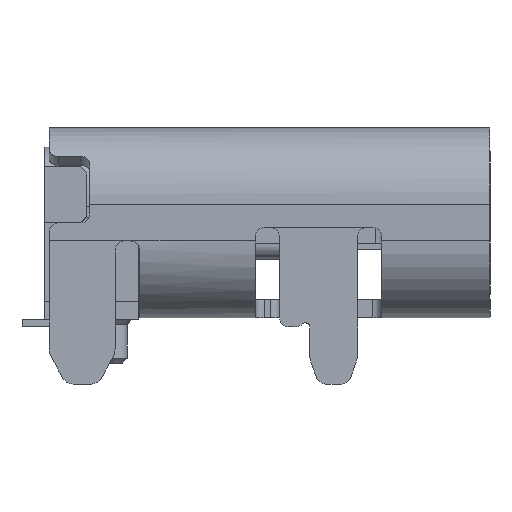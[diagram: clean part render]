
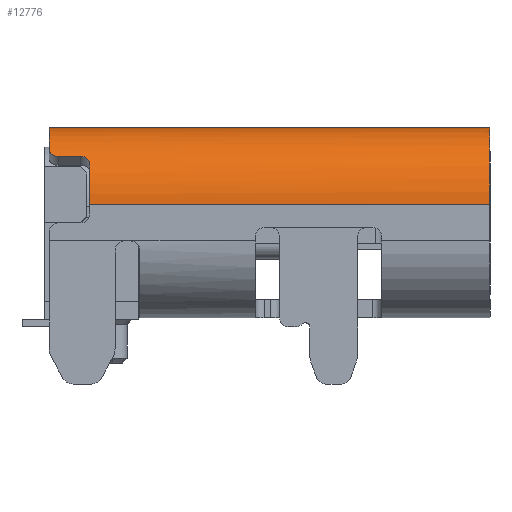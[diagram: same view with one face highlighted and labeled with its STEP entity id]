
A CAD part, left-side view. The second image highlights one B-rep face of the part: STEP entity #12776.
In plain terms, the highlighted cylindrical face has radius 1.28 mm (diameter 2.56 mm), a partial arc.
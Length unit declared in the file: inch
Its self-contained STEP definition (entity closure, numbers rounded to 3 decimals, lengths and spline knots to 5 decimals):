
#213 = CARTESIAN_POINT ( 'NONE',  ( -0.16455, 0.14064, 0.11189 ) ) ;
#229 = CARTESIAN_POINT ( 'NONE',  ( -0.16477, 0.12303, 0.11161 ) ) ;
#541 = VECTOR ( 'NONE', #14574, 39.37008 ) ;
#687 = EDGE_CURVE ( 'NONE', #16329, #3820, #5750, .T. ) ;
#922 = VERTEX_POINT ( 'NONE', #14120 ) ;
#1063 = VERTEX_POINT ( 'NONE', #3758 ) ;
#1182 = AXIS2_PLACEMENT_3D ( 'NONE', #12860, #15890, #6630 ) ;
#1657 = EDGE_LOOP ( 'NONE', ( #13196, #19400, #12576, #17677, #17789, #9698, #3489, #3994 ) ) ;
#1800 = AXIS2_PLACEMENT_3D ( 'NONE', #6324, #5033, #18429 ) ;
#2534 = DIRECTION ( 'NONE',  ( 1., 0., 0. ) ) ;
#2635 = CARTESIAN_POINT ( 'NONE',  ( -0.17598, -0.14469, 0.07992 ) ) ;
#2639 = LINE ( 'NONE', #17732, #16073 ) ;
#3489 = ORIENTED_EDGE ( 'NONE', *, *, #17848, .T. ) ;
#3758 = CARTESIAN_POINT ( 'NONE',  ( -0.16823, 0.11713, 0.10677 ) ) ;
#3790 = CARTESIAN_POINT ( 'NONE',  ( -0.12559, -0.14469, 0.07992 ) ) ;
#3820 = VERTEX_POINT ( 'NONE', #4444 ) ;
#3911 = B_SPLINE_CURVE_WITH_KNOTS ( 'NONE', 7,
 ( #11074, #9489, #15419, #6343, #13744, #9192, #18654, #229 ),
 .UNSPECIFIED., .F., .F.,
 ( 8, 8 ),
 ( 0., 1. ),
 .UNSPECIFIED. ) ;
#3994 = ORIENTED_EDGE ( 'NONE', *, *, #19463, .F. ) ;
#4020 = DIRECTION ( 'NONE',  ( 0., -1., 0. ) ) ;
#4029 = VERTEX_POINT ( 'NONE', #2635 ) ;
#4444 = CARTESIAN_POINT ( 'NONE',  ( -0.12559, 0.1439, 0.13031 ) ) ;
#4558 = CARTESIAN_POINT ( 'NONE',  ( -0.12559, -0.14469, 0.13031 ) ) ;
#4751 = CARTESIAN_POINT ( 'NONE',  ( -0.16262, 0.14355, 0.11415 ) ) ;
#5033 = DIRECTION ( 'NONE',  ( 0., -1., 0. ) ) ;
#5750 = LINE ( 'NONE', #4558, #14151 ) ;
#6233 = EDGE_CURVE ( 'NONE', #16329, #4029, #18811, .T. ) ;
#6324 = CARTESIAN_POINT ( 'NONE',  ( -0.12559, -0.14469, 0.07992 ) ) ;
#6343 = CARTESIAN_POINT ( 'NONE',  ( -0.16606, 0.11817, 0.11 ) ) ;
#6630 = DIRECTION ( 'NONE',  ( 1., 0., 0. ) ) ;
#6653 = DIRECTION ( 'NONE',  ( 1., 0., 0. ) ) ;
#7361 = CARTESIAN_POINT ( 'NONE',  ( -0.16067, 0.1439, 0.11611 ) ) ;
#7609 = CARTESIAN_POINT ( 'NONE',  ( -0.16477, 0.13932, 0.11161 ) ) ;
#8190 = VERTEX_POINT ( 'NONE', #7361 ) ;
#8545 = LINE ( 'NONE', #14665, #541 ) ;
#8769 = DIRECTION ( 'NONE',  ( 0., -1., 0. ) ) ;
#9160 = EDGE_CURVE ( 'NONE', #4029, #14250, #8545, .T. ) ;
#9192 = CARTESIAN_POINT ( 'NONE',  ( -0.16499, 0.12039, 0.11134 ) ) ;
#9476 = EDGE_CURVE ( 'NONE', #3820, #8190, #15668, .T. ) ;
#9489 = CARTESIAN_POINT ( 'NONE',  ( -0.16752, 0.11713, 0.1079 ) ) ;
#9698 = ORIENTED_EDGE ( 'NONE', *, *, #13045, .F. ) ;
#9708 = CYLINDRICAL_SURFACE ( 'NONE', #13177, 0.05039 ) ;
#9973 = CIRCLE ( 'NONE', #10965, 0.05039 ) ;
#10394 = DIRECTION ( 'NONE',  ( 0., 1., 0. ) ) ;
#10965 = AXIS2_PLACEMENT_3D ( 'NONE', #18999, #4020, #2534 ) ;
#11074 = CARTESIAN_POINT ( 'NONE',  ( -0.16823, 0.11713, 0.10677 ) ) ;
#11384 = VERTEX_POINT ( 'NONE', #12407 ) ;
#11981 = CARTESIAN_POINT ( 'NONE',  ( -0.16477, 0.13799, 0.11161 ) ) ;
#12407 = CARTESIAN_POINT ( 'NONE',  ( -0.16477, 0.12303, 0.11161 ) ) ;
#12576 = ORIENTED_EDGE ( 'NONE', *, *, #6233, .F. ) ;
#12776 = ADVANCED_FACE ( 'NONE', ( #17296 ), #9708, .T. ) ;
#12860 = CARTESIAN_POINT ( 'NONE',  ( -0.12559, 0.1439, 0.07992 ) ) ;
#13045 = EDGE_CURVE ( 'NONE', #922, #8190, #13455, .T. ) ;
#13177 = AXIS2_PLACEMENT_3D ( 'NONE', #3790, #18774, #6653 ) ;
#13196 = ORIENTED_EDGE ( 'NONE', *, *, #19047, .T. ) ;
#13455 = B_SPLINE_CURVE_WITH_KNOTS ( 'NONE', 7,
 ( #11981, #7609, #213, #19358, #16693, #4751, #16406, #15016 ),
 .UNSPECIFIED., .F., .F.,
 ( 8, 8 ),
 ( 0., 1. ),
 .UNSPECIFIED. ) ;
#13734 = CARTESIAN_POINT ( 'NONE',  ( -0.17598, 0.11713, 0.07992 ) ) ;
#13744 = CARTESIAN_POINT ( 'NONE',  ( -0.16543, 0.11917, 0.11079 ) ) ;
#14120 = CARTESIAN_POINT ( 'NONE',  ( -0.16477, 0.13799, 0.11161 ) ) ;
#14151 = VECTOR ( 'NONE', #10394, 39.37008 ) ;
#14250 = VERTEX_POINT ( 'NONE', #13734 ) ;
#14574 = DIRECTION ( 'NONE',  ( 0., 1., 0. ) ) ;
#14665 = CARTESIAN_POINT ( 'NONE',  ( -0.17598, -0.14469, 0.07992 ) ) ;
#14879 = CARTESIAN_POINT ( 'NONE',  ( -0.12559, -0.14469, 0.13031 ) ) ;
#15016 = CARTESIAN_POINT ( 'NONE',  ( -0.16067, 0.1439, 0.11611 ) ) ;
#15419 = CARTESIAN_POINT ( 'NONE',  ( -0.16678, 0.11747, 0.10901 ) ) ;
#15668 = CIRCLE ( 'NONE', #1182, 0.05039 ) ;
#15890 = DIRECTION ( 'NONE',  ( 0., -1., 0. ) ) ;
#16073 = VECTOR ( 'NONE', #8769, 39.37008 ) ;
#16329 = VERTEX_POINT ( 'NONE', #14879 ) ;
#16406 = CARTESIAN_POINT ( 'NONE',  ( -0.16166, 0.1439, 0.11514 ) ) ;
#16693 = CARTESIAN_POINT ( 'NONE',  ( -0.16345, 0.14285, 0.11322 ) ) ;
#17296 = FACE_OUTER_BOUND ( 'NONE', #1657, .T. ) ;
#17677 = ORIENTED_EDGE ( 'NONE', *, *, #687, .T. ) ;
#17732 = CARTESIAN_POINT ( 'NONE',  ( -0.16477, -0.14469, 0.11161 ) ) ;
#17789 = ORIENTED_EDGE ( 'NONE', *, *, #9476, .T. ) ;
#17848 = EDGE_CURVE ( 'NONE', #922, #11384, #2639, .T. ) ;
#18429 = DIRECTION ( 'NONE',  ( 1., 0., 0. ) ) ;
#18654 = CARTESIAN_POINT ( 'NONE',  ( -0.16477, 0.12171, 0.11161 ) ) ;
#18774 = DIRECTION ( 'NONE',  ( 0., -1., 0. ) ) ;
#18811 = CIRCLE ( 'NONE', #1800, 0.05039 ) ;
#18999 = CARTESIAN_POINT ( 'NONE',  ( -0.12559, 0.11713, 0.07992 ) ) ;
#19047 = EDGE_CURVE ( 'NONE', #1063, #14250, #9973, .T. ) ;
#19358 = CARTESIAN_POINT ( 'NONE',  ( -0.16411, 0.14186, 0.11244 ) ) ;
#19400 = ORIENTED_EDGE ( 'NONE', *, *, #9160, .F. ) ;
#19463 = EDGE_CURVE ( 'NONE', #1063, #11384, #3911, .T. ) ;
